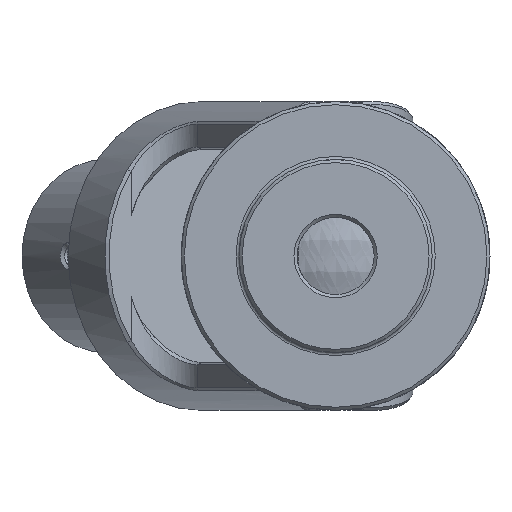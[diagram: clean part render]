
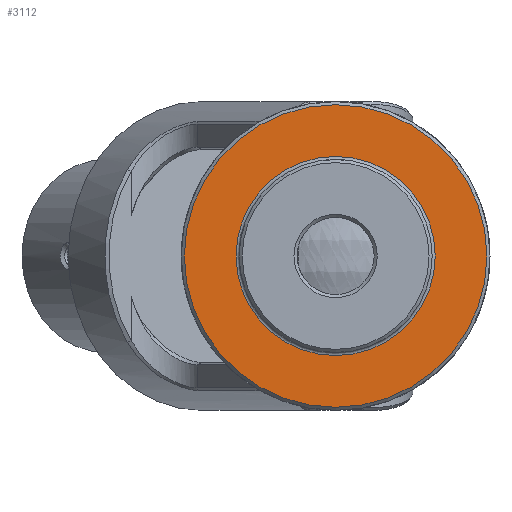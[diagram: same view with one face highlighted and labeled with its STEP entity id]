
A CAD part, left-side view. The second image highlights one B-rep face of the part: STEP entity #3112.
In plain terms, the highlighted planar face has unit normal (-1, 0, 0).
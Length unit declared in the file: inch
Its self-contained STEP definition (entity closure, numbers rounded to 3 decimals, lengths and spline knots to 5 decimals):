
#215=PLANE('',#12930);
#975=VERTEX_POINT('',#12204);
#976=VERTEX_POINT('',#12207);
#1076=CIRCLE('',#12929,0.16125);
#1077=CIRCLE('',#12931,0.245);
#1494=EDGE_CURVE('',#975,#975,#1076,.T.);
#1495=EDGE_CURVE('',#976,#976,#1077,.T.);
#2325=ORIENTED_EDGE('',*,*,#1495,.F.);
#2326=ORIENTED_EDGE('',*,*,#1494,.F.);
#2616=EDGE_LOOP('',(#2325));
#2617=EDGE_LOOP('',(#2326));
#2892=FACE_BOUND('',#2616,.T.);
#2893=FACE_BOUND('',#2617,.T.);
#3112=ADVANCED_FACE('',(#2892,#2893),#215,.F.);
#3741=DIRECTION('',(-1.,0.,0.));
#3742=DIRECTION('',(0.,0.,0.161));
#3743=DIRECTION('',(1.,0.,0.));
#3744=DIRECTION('',(1.,0.,0.));
#3745=DIRECTION('',(0.,0.,0.245));
#12203=CARTESIAN_POINT('',(-0.438,0.,0.));
#12204=CARTESIAN_POINT('',(-0.438,0.,-0.16125));
#12205=CARTESIAN_POINT('',(-0.438,0.15625,0.));
#12206=CARTESIAN_POINT('',(-0.438,0.,0.));
#12207=CARTESIAN_POINT('',(-0.438,0.,-0.245));
#12929=AXIS2_PLACEMENT_3D('',#12203,#3741,#3742);
#12930=AXIS2_PLACEMENT_3D('',#12205,#3743,$);
#12931=AXIS2_PLACEMENT_3D('',#12206,#3744,#3745);
